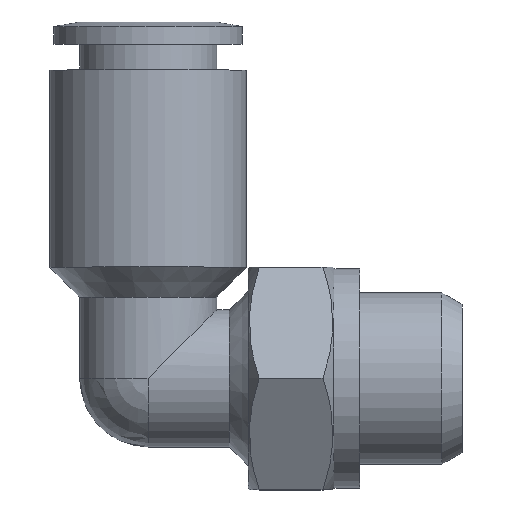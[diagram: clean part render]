
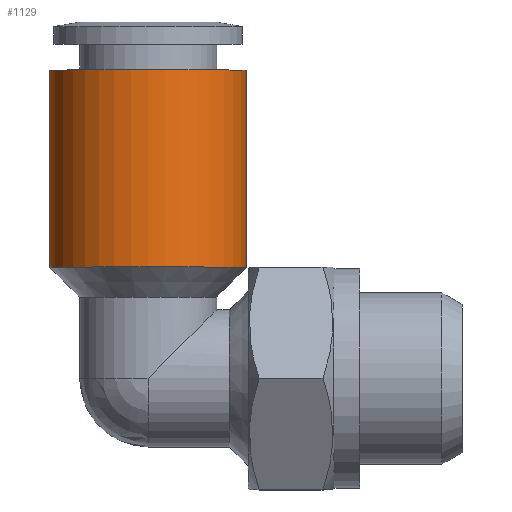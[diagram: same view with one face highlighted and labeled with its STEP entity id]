
A CAD part, top view. The second image highlights one B-rep face of the part: STEP entity #1129.
In plain terms, the highlighted cylindrical face has radius 5.75 mm (diameter 11.5 mm), a full revolution.
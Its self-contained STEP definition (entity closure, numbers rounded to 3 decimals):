
#1095=CARTESIAN_POINT('',(-5.75,6.5,0.0));
#1096=VERTEX_POINT('',#1095);
#1097=CARTESIAN_POINT('',(0.0,6.5,0.0));
#1098=DIRECTION('',(0.0,1.0,0.0));
#1099=DIRECTION('',(-1.0,0.0,0.0));
#1100=AXIS2_PLACEMENT_3D('',#1097,#1098,#1099);
#1101=CIRCLE('',#1100,5.75);
#1102=EDGE_CURVE('',#1096,#1096,#1101,.T.);
#1110=CARTESIAN_POINT('',(0.0,12.25,0.0));
#1111=DIRECTION('',(0.0,1.0,0.0));
#1112=DIRECTION('',(-1.0,0.0,0.0));
#1113=AXIS2_PLACEMENT_3D('',#1110,#1111,#1112);
#1114=CYLINDRICAL_SURFACE('',#1113,5.75);
#1115=CARTESIAN_POINT('',(-5.75,18.0,0.0));
#1116=VERTEX_POINT('',#1115);
#1117=CARTESIAN_POINT('',(0.0,18.0,0.0));
#1118=DIRECTION('',(0.0,1.0,0.0));
#1119=DIRECTION('',(-1.0,0.0,0.0));
#1120=AXIS2_PLACEMENT_3D('',#1117,#1118,#1119);
#1121=CIRCLE('',#1120,5.75);
#1122=EDGE_CURVE('',#1116,#1116,#1121,.T.);
#1123=ORIENTED_EDGE('',*,*,#1122,.F.);
#1124=EDGE_LOOP('',(#1123));
#1125=FACE_OUTER_BOUND('',#1124,.T.);
#1126=ORIENTED_EDGE('',*,*,#1102,.T.);
#1127=EDGE_LOOP('',(#1126));
#1128=FACE_BOUND('',#1127,.T.);
#1129=ADVANCED_FACE('',(#1125,#1128),#1114,.T.);
